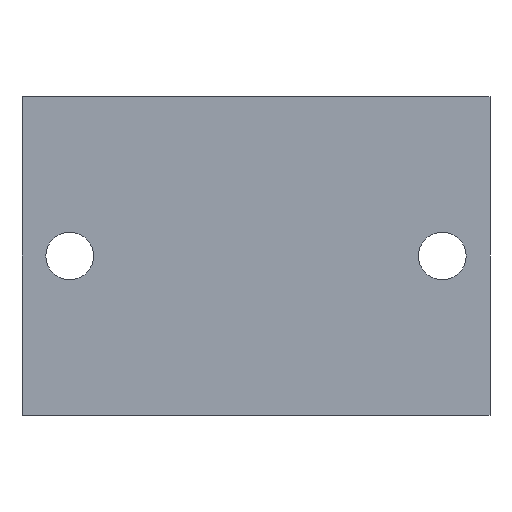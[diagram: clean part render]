
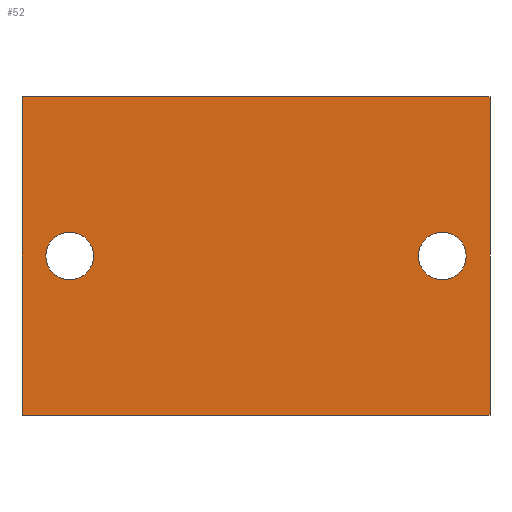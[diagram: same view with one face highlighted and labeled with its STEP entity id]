
A CAD part, front view. The second image highlights one B-rep face of the part: STEP entity #52.
In plain terms, the highlighted planar face has unit normal (0, -1, 0).
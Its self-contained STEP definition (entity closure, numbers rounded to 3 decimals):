
#6 = EDGE_CURVE ( 'NONE', #358, #654, #578, .T. ) ;
#8 = DIRECTION ( 'NONE',  ( 0., 0., -1. ) ) ;
#16 = DIRECTION ( 'NONE',  ( 0., 1., 0. ) ) ;
#20 = ORIENTED_EDGE ( 'NONE', *, *, #91, .F. ) ;
#39 = ORIENTED_EDGE ( 'NONE', *, *, #761, .F. ) ;
#44 = EDGE_LOOP ( 'NONE', ( #39, #20 ) ) ;
#50 = LINE ( 'NONE', #512, #869 ) ;
#52 = ADVANCED_FACE ( 'NONE', ( #438, #721, #373 ), #571, .F. ) ;
#58 = ORIENTED_EDGE ( 'NONE', *, *, #267, .T. ) ;
#82 = DIRECTION ( 'NONE',  ( 0., -1., 0. ) ) ;
#91 = EDGE_CURVE ( 'NONE', #122, #590, #173, .T. ) ;
#95 = VERTEX_POINT ( 'NONE', #417 ) ;
#122 = VERTEX_POINT ( 'NONE', #414 ) ;
#130 = LINE ( 'NONE', #469, #301 ) ;
#132 = VERTEX_POINT ( 'NONE', #343 ) ;
#155 = DIRECTION ( 'NONE',  ( 0., -1., 0. ) ) ;
#160 = CARTESIAN_POINT ( 'NONE',  ( 51.5, -46., 35. ) ) ;
#173 = CIRCLE ( 'NONE', #262, 5.25 ) ;
#185 = AXIS2_PLACEMENT_3D ( 'NONE', #549, #757, #684 ) ;
#241 = DIRECTION ( 'NONE',  ( 0., 0., -1. ) ) ;
#262 = AXIS2_PLACEMENT_3D ( 'NONE', #810, #155, #403 ) ;
#267 = EDGE_CURVE ( 'NONE', #654, #132, #50, .T. ) ;
#292 = VECTOR ( 'NONE', #718, 1000. ) ;
#301 = VECTOR ( 'NONE', #670, 1000. ) ;
#310 = ORIENTED_EDGE ( 'NONE', *, *, #526, .F. ) ;
#337 = EDGE_CURVE ( 'NONE', #358, #786, #725, .T. ) ;
#341 = DIRECTION ( 'NONE',  ( 0., -1., 0. ) ) ;
#343 = CARTESIAN_POINT ( 'NONE',  ( 51.5, -46., -35. ) ) ;
#347 = CIRCLE ( 'NONE', #855, 5.25 ) ;
#358 = VERTEX_POINT ( 'NONE', #653 ) ;
#367 = ORIENTED_EDGE ( 'NONE', *, *, #651, .F. ) ;
#373 = FACE_OUTER_BOUND ( 'NONE', #625, .T. ) ;
#399 = CARTESIAN_POINT ( 'NONE',  ( -41., -46., 0. ) ) ;
#401 = DIRECTION ( 'NONE',  ( 0., 0., -1. ) ) ;
#403 = DIRECTION ( 'NONE',  ( 0., 0., -1. ) ) ;
#411 = CARTESIAN_POINT ( 'NONE',  ( -51.5, -46., -35. ) ) ;
#414 = CARTESIAN_POINT ( 'NONE',  ( 41., -46., 5.25 ) ) ;
#417 = CARTESIAN_POINT ( 'NONE',  ( -41., -46., -5.25 ) ) ;
#438 = FACE_BOUND ( 'NONE', #776, .T. ) ;
#465 = VECTOR ( 'NONE', #241, 1000. ) ;
#469 = CARTESIAN_POINT ( 'NONE',  ( 51.5, -46., 35. ) ) ;
#485 = AXIS2_PLACEMENT_3D ( 'NONE', #399, #82, #401 ) ;
#493 = CARTESIAN_POINT ( 'NONE',  ( 41., -46., -5.25 ) ) ;
#512 = CARTESIAN_POINT ( 'NONE',  ( -51.5, -46., -35. ) ) ;
#524 = VERTEX_POINT ( 'NONE', #735 ) ;
#526 = EDGE_CURVE ( 'NONE', #95, #524, #833, .T. ) ;
#549 = CARTESIAN_POINT ( 'NONE',  ( -41., -46., 0. ) ) ;
#571 = PLANE ( 'NONE',  #683 ) ;
#578 = LINE ( 'NONE', #655, #465 ) ;
#590 = VERTEX_POINT ( 'NONE', #493 ) ;
#625 = EDGE_LOOP ( 'NONE', ( #58, #367, #769, #781 ) ) ;
#651 = EDGE_CURVE ( 'NONE', #786, #132, #130, .T. ) ;
#653 = CARTESIAN_POINT ( 'NONE',  ( -51.5, -46., 35. ) ) ;
#654 = VERTEX_POINT ( 'NONE', #411 ) ;
#655 = CARTESIAN_POINT ( 'NONE',  ( -51.5, -46., 35. ) ) ;
#670 = DIRECTION ( 'NONE',  ( 0., 0., -1. ) ) ;
#683 = AXIS2_PLACEMENT_3D ( 'NONE', #843, #16, #696 ) ;
#684 = DIRECTION ( 'NONE',  ( 0., 0., -1. ) ) ;
#693 = CARTESIAN_POINT ( 'NONE',  ( 41., -46., 0. ) ) ;
#696 = DIRECTION ( 'NONE',  ( -1., 0., 0. ) ) ;
#703 = ORIENTED_EDGE ( 'NONE', *, *, #717, .F. ) ;
#717 = EDGE_CURVE ( 'NONE', #524, #95, #850, .T. ) ;
#718 = DIRECTION ( 'NONE',  ( 1., 0., 0. ) ) ;
#721 = FACE_BOUND ( 'NONE', #44, .T. ) ;
#725 = LINE ( 'NONE', #854, #292 ) ;
#735 = CARTESIAN_POINT ( 'NONE',  ( -41., -46., 5.25 ) ) ;
#757 = DIRECTION ( 'NONE',  ( 0., -1., 0. ) ) ;
#761 = EDGE_CURVE ( 'NONE', #590, #122, #347, .T. ) ;
#769 = ORIENTED_EDGE ( 'NONE', *, *, #337, .F. ) ;
#776 = EDGE_LOOP ( 'NONE', ( #310, #703 ) ) ;
#778 = DIRECTION ( 'NONE',  ( 1., 0., 0. ) ) ;
#781 = ORIENTED_EDGE ( 'NONE', *, *, #6, .T. ) ;
#786 = VERTEX_POINT ( 'NONE', #160 ) ;
#810 = CARTESIAN_POINT ( 'NONE',  ( 41., -46., 0. ) ) ;
#833 = CIRCLE ( 'NONE', #485, 5.25 ) ;
#843 = CARTESIAN_POINT ( 'NONE',  ( -51.5, -46., 35. ) ) ;
#850 = CIRCLE ( 'NONE', #185, 5.25 ) ;
#854 = CARTESIAN_POINT ( 'NONE',  ( -51.5, -46., 35. ) ) ;
#855 = AXIS2_PLACEMENT_3D ( 'NONE', #693, #341, #8 ) ;
#869 = VECTOR ( 'NONE', #778, 1000. ) ;
